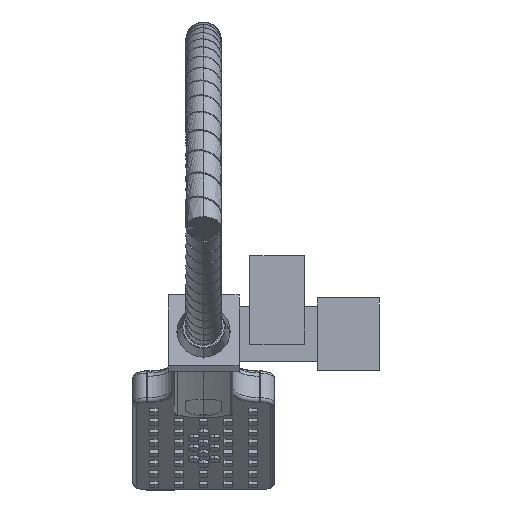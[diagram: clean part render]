
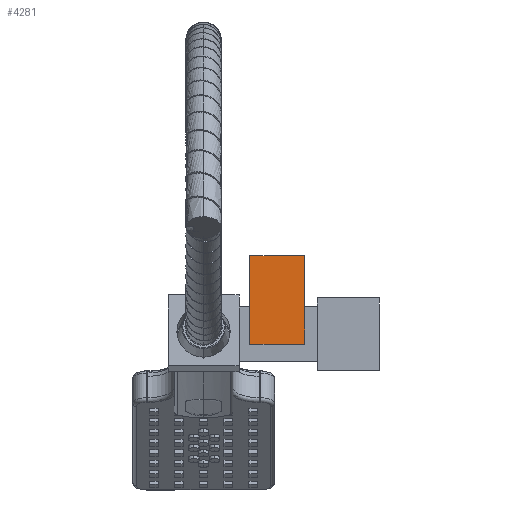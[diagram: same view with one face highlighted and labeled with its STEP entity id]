
A CAD part, front view. The second image highlights one B-rep face of the part: STEP entity #4281.
In plain terms, the highlighted planar face has unit normal (0, -1, 0).
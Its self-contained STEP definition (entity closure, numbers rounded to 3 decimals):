
#1967 = CARTESIAN_POINT ( 'NONE',  ( 31., -57.441, -272.599 ) ) ;
#2356 = CARTESIAN_POINT ( 'NONE',  ( 0., -57.441, -322.459 ) ) ;
#3231 = DIRECTION ( 'NONE',  ( 0., 0., -1. ) ) ;
#3680 = ORIENTED_EDGE ( 'NONE', *, *, #35792, .T. ) ;
#3922 = EDGE_CURVE ( 'NONE', #15872, #10529, #8356, .T. ) ;
#4201 = EDGE_LOOP ( 'NONE', ( #3680, #5109, #38833, #15365 ) ) ;
#4281 = ADVANCED_FACE ( 'NONE', ( #22212 ), #42060, .F. ) ;
#5109 = ORIENTED_EDGE ( 'NONE', *, *, #37224, .F. ) ;
#6943 = DIRECTION ( 'NONE',  ( 0., 0., -1. ) ) ;
#8356 = LINE ( 'NONE', #29409, #25678 ) ;
#9712 = VECTOR ( 'NONE', #20097, 1000. ) ;
#10529 = VERTEX_POINT ( 'NONE', #37660 ) ;
#13032 = VECTOR ( 'NONE', #6943, 1000. ) ;
#15365 = ORIENTED_EDGE ( 'NONE', *, *, #3922, .T. ) ;
#15872 = VERTEX_POINT ( 'NONE', #1967 ) ;
#19978 = CARTESIAN_POINT ( 'NONE',  ( 31., -57.441, -322.459 ) ) ;
#20097 = DIRECTION ( 'NONE',  ( -1., 0., 0. ) ) ;
#21483 = VERTEX_POINT ( 'NONE', #35389 ) ;
#21987 = DIRECTION ( 'NONE',  ( -1., 0., 0. ) ) ;
#22212 = FACE_OUTER_BOUND ( 'NONE', #4201, .T. ) ;
#22884 = LINE ( 'NONE', #47453, #13032 ) ;
#23264 = VERTEX_POINT ( 'NONE', #2356 ) ;
#23699 = DIRECTION ( 'NONE',  ( 0., 0., 1. ) ) ;
#25406 = CARTESIAN_POINT ( 'NONE',  ( 0., -57.441, -322.459 ) ) ;
#25678 = VECTOR ( 'NONE', #21987, 1000. ) ;
#27939 = LINE ( 'NONE', #25406, #38910 ) ;
#28911 = EDGE_CURVE ( 'NONE', #15872, #21483, #22884, .T. ) ;
#29409 = CARTESIAN_POINT ( 'NONE',  ( 31., -57.441, -272.599 ) ) ;
#34662 = DIRECTION ( 'NONE',  ( 0., 1., 0. ) ) ;
#35389 = CARTESIAN_POINT ( 'NONE',  ( 31., -57.441, -322.459 ) ) ;
#35792 = EDGE_CURVE ( 'NONE', #10529, #23264, #27939, .T. ) ;
#37224 = EDGE_CURVE ( 'NONE', #21483, #23264, #40311, .T. ) ;
#37232 = AXIS2_PLACEMENT_3D ( 'NONE', #19978, #34662, #23699 ) ;
#37660 = CARTESIAN_POINT ( 'NONE',  ( 0., -57.441, -272.599 ) ) ;
#38833 = ORIENTED_EDGE ( 'NONE', *, *, #28911, .F. ) ;
#38910 = VECTOR ( 'NONE', #3231, 1000. ) ;
#40311 = LINE ( 'NONE', #42170, #9712 ) ;
#42060 = PLANE ( 'NONE',  #37232 ) ;
#42170 = CARTESIAN_POINT ( 'NONE',  ( 31., -57.441, -322.459 ) ) ;
#47453 = CARTESIAN_POINT ( 'NONE',  ( 31., -57.441, -322.459 ) ) ;
